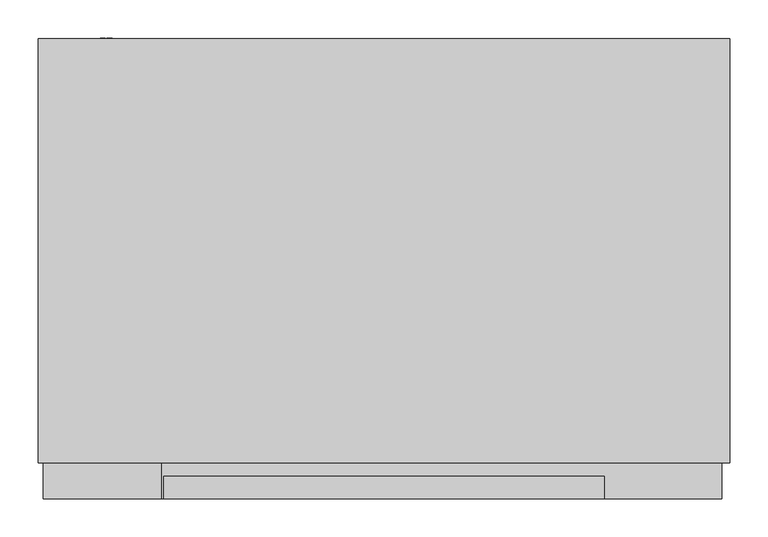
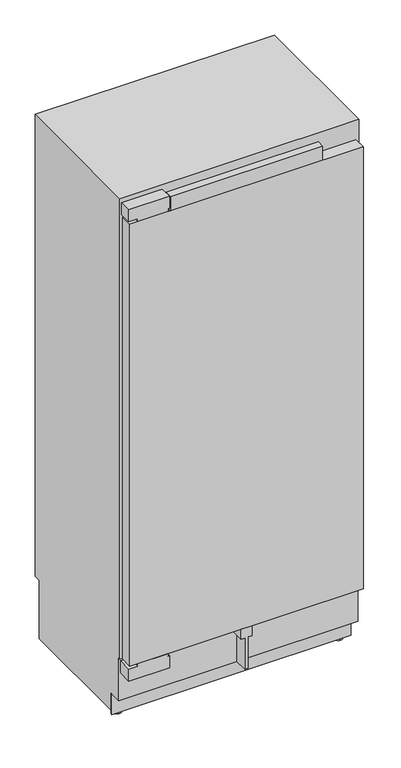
"""IFC4 building model written with IfcOpenShell, lengths in millimetres: proxy geometry, 11502720_USA_K2912Vi : 36291201_USA_11502720_K2912Vi."""

from ifc_helpers import new_model, si_unit, point, frame, frame_2d, origin, place, context, project, spatial, polyline, circle_curve, trimmed, segment, composite_curve, outline, extrude, source, transform, mapped, element, save
from ifc_brep_helpers import plane_surface, cylinder_surface, advanced_brep


def specialty_equipment_9068d553(model_context):
    return source(origin(), model_context, "Body", "SolidModel", [
        extrude(outline(polyline([(-443.0, 47.0), (443.0, 47.0), (443.0, 0.0), (-443.0, 0.0), (-443.0, 47.0)])), frame((0.0, 0.0, 265.0), z_axis=(0.0, 0.0, 1.0), x_axis=(1.0, 0.0, 0.0)), (0.0, 0.0, 1.0), 1771.0),
        extrude(outline(polyline([(-289.0, 29.0), (289.0, 29.0), (289.0, 0.0), (-289.0, 0.0), (-289.0, 29.0)])), frame((0.0, 0.0, 2036.0), z_axis=(0.0, 0.0, 1.0), x_axis=(1.0, 0.0, 0.0)), (0.0, 0.0, 1.0), 56.0),
        extrude(outline(polyline([(265.0, 21.0), (265.0, 0.0), (265.0, -21.0), (224.0, -21.0), (224.0, -6.5), (99.0, -6.5), (99.0, 0.0), (99.0, 6.5), (224.0, 6.5), (224.0, 21.0), (265.0, 21.0)])), frame((0.0, 0.0, 0.0), z_axis=(0.0, 1.0, 0.0), x_axis=(0.0, 0.0, 1.0)), (0.0, 0.0, 1.0), 54.0),
        extrude(outline(polyline([(87.0, 1998.0), (544.0, 1998.0), (544.0, 1791.0), (475.0, 1791.0), (447.0, 1868.0), (201.3701279, 1868.0), (156.3150905, 1940.0880598), (87.0, 1949.0), (87.0, 1998.0)])), frame((-408.0, 0.0, 0.0), z_axis=(1.0, 0.0, 0.0), x_axis=(0.0, 1.0, 0.0)), (0.0, 0.0, 1.0), 816.0),
        extrude(outline(polyline([(196.9886114, 1875.0), (195.809433, 1875.0), (158.6921935, 1934.4), (159.8713719, 1934.4), (196.9886114, 1875.0)])), frame((-69.0, 0.0, 0.0), z_axis=(1.0, 0.0, 0.0), x_axis=(0.0, 1.0, 0.0)), (0.0, 0.0, 1.0), 138.0),
        extrude(outline(polyline([(2095.0, -447.5), (2047.0, -447.5), (2047.0, -413.5), (2036.5, -413.5), (2036.5, -298.5), (2047.0, -298.5), (2047.0, -292.5), (2095.0, -292.5), (2095.0, -447.5)])), frame((0.0, 0.0, 0.0), z_axis=(0.0, 1.0, 0.0), x_axis=(0.0, 0.0, 1.0)), (0.0, 0.0, 1.0), 47.0),
        extrude(outline(polyline([(254.0, -447.5), (206.0, -447.5), (206.0, -292.5), (254.0, -292.5), (254.0, -298.5), (264.0, -298.5), (264.0, -413.5), (254.0, -413.5), (254.0, -447.5)])), frame((0.0, 0.0, 0.0), z_axis=(0.0, 1.0, 0.0), x_axis=(0.0, 0.0, 1.0)), (0.0, 0.0, 1.0), 54.0),
        extrude(outline(polyline([(99.0373308, -363.7645771), (97.7615342, -363.7645771), (97.7615342, -357.8195541), (94.7968516, -357.8195541), (94.7968516, -363.469579), (93.5246295, -363.469579), (93.5246295, -357.8415693), (90.2570046, -357.8415693), (90.2570046, -363.9619689), (88.9546219, -363.9619689), (88.9546219, -356.5443524), (99.0373308, -356.5443524), (99.0373308, -363.7645771)])), frame((0.0, 604.0, 0.0), z_axis=(0.0, 1.0, 0.0), x_axis=(0.0, 0.0, 1.0)), (0.0, 0.0, 1.0), 1.0),
        extrude(outline(polyline([(99.0458, -367.0619704), (90.2663944, -367.0619704), (90.2663944, -372.1145879), (89.0134802, -372.1145879), (89.0134802, -365.8423809), (99.0458, -365.8423809), (99.0458, -367.0619704)])), frame((0.0, 604.0, 0.0), z_axis=(0.0, 1.0, 0.0), x_axis=(0.0, 0.0, 1.0)), (0.0, 0.0, 1.0), 1.0),
        extrude(outline(composite_curve([segment(trimmed(circle_curve(frame_2d((94.0, -364.0)), 7.5), [point((86.5, -364.0))], [point((101.5, -364.0))], False, "CARTESIAN"), True, "CONTINUOUS"), segment(trimmed(circle_curve(frame_2d((94.0, -364.0)), 7.5), [point((101.5, -364.0))], [point((86.5, -364.0))], False, "CARTESIAN"), True, "CONTINUOUS")], self_intersect=False)), frame((0.0, 577.0, 0.0), z_axis=(0.0, 1.0, 0.0), x_axis=(0.0, 0.0, 1.0)), (0.0, 0.0, 1.0), 27.0),
        extrude(outline(polyline([(-454.0, 104.0), (454.0, 104.0), (454.0, 99.0), (-454.0, 99.0), (-454.0, 104.0)])), frame((0.0, 0.0, 14.0), z_axis=(0.0, 0.0, 1.0), x_axis=(1.0, 0.0, 0.0)), (0.0, 0.0, 1.0), 83.0),
        advanced_brep(
        [(-420.0, 139.0, 0.0), (-420.0, 109.0, 0.0), (-420.0, 139.0, 7.0), (-420.0, 109.0, 7.0), (-420.0, 128.7, 7.0), (-420.0, 119.3, 7.0), (-420.0, 128.7, 28.0), (-420.0, 119.3, 28.0)],
        [
            (0, 1, circle_curve(frame((-420.0, 124.0, 0.0), z_axis=(0.0, 0.0, -1.0), x_axis=(1.0, 0.0, 0.0)), 15.0)),
            (1, 0, circle_curve(frame((-420.0, 124.0, 0.0), z_axis=(0.0, 0.0, -1.0), x_axis=(1.0, 0.0, 0.0)), 15.0)),
            (2, 3, circle_curve(frame((-420.0, 124.0, 7.0), z_axis=(0.0, 0.0, 1.0), x_axis=(1.0, 0.0, 0.0)), 15.0)),
            (3, 2, circle_curve(frame((-420.0, 124.0, 7.0), z_axis=(0.0, 0.0, 1.0), x_axis=(1.0, 0.0, 0.0)), 15.0)),
            (4, 5, circle_curve(frame((-420.0, 124.0, 7.0), z_axis=(0.0, 0.0, -1.0), x_axis=(0.0, -1.0, 0.0)), 4.7)),
            (5, 4, circle_curve(frame((-420.0, 124.0, 7.0), z_axis=(0.0, 0.0, -1.0), x_axis=(0.0, -1.0, 0.0)), 4.7)),
            (0, 2),
            (3, 1),
            (6, 7, circle_curve(frame((-420.0, 124.0, 28.0), z_axis=(0.0, 0.0, 1.0), x_axis=(0.0, -1.0, 0.0)), 4.7)),
            (7, 6, circle_curve(frame((-420.0, 124.0, 28.0), z_axis=(0.0, 0.0, 1.0), x_axis=(0.0, -1.0, 0.0)), 4.7)),
            (7, 5),
            (4, 6),
        ],
        [
            plane_surface(frame((-405.0, 124.0, 0.0), z_axis=(0.0, 0.0, -1.0), x_axis=(0.0, -1.0, 0.0))),
            plane_surface(frame((-405.0, 124.0, 7.0), z_axis=(0.0, 0.0, 1.0), x_axis=(0.0, 1.0, 0.0))),
            cylinder_surface(frame((-420.0, 124.0, 7.0), z_axis=(0.0, 0.0, -1.0), x_axis=(1.0, 0.0, 0.0)), 15.0),
            plane_surface(frame((-420.0, 119.3, 28.0), z_axis=(0.0, 0.0, 1.0), x_axis=(1.0, 0.0, 0.0))),
            cylinder_surface(frame((-420.0, 124.0, 28.0), z_axis=(0.0, 0.0, -1.0), x_axis=(0.0, -1.0, 0.0)), 4.7),
        ],
        [
            (0, [[1, 2]]),
            (1, [[3, 4], [5, 6]]),
            (2, [[-1, 7, -4, 8]]),
            (2, [[-2, -8, -3, -7]]),
            (3, [[9, 10]]),
            (4, [[-10, 11, -5, 12]]),
            (4, [[-9, -12, -6, -11]]),
        ],
    ),
        advanced_brep(
        [(420.0, 139.0, 0.0), (420.0, 109.0, 0.0), (420.0, 139.0, 7.0), (420.0, 109.0, 7.0), (420.0, 128.7, 7.0), (420.0, 119.3, 7.0), (420.0, 128.7, 28.0), (420.0, 119.3, 28.0)],
        [
            (0, 1, circle_curve(frame((420.0, 124.0, 0.0), z_axis=(0.0, 0.0, -1.0), x_axis=(1.0, 0.0, 0.0)), 15.0)),
            (1, 0, circle_curve(frame((420.0, 124.0, 0.0), z_axis=(0.0, 0.0, -1.0), x_axis=(1.0, 0.0, 0.0)), 15.0)),
            (2, 3, circle_curve(frame((420.0, 124.0, 7.0), z_axis=(0.0, 0.0, 1.0), x_axis=(1.0, 0.0, 0.0)), 15.0)),
            (3, 2, circle_curve(frame((420.0, 124.0, 7.0), z_axis=(0.0, 0.0, 1.0), x_axis=(1.0, 0.0, 0.0)), 15.0)),
            (4, 5, circle_curve(frame((420.0, 124.0, 7.0), z_axis=(0.0, 0.0, -1.0), x_axis=(0.0, -1.0, 0.0)), 4.7)),
            (5, 4, circle_curve(frame((420.0, 124.0, 7.0), z_axis=(0.0, 0.0, -1.0), x_axis=(0.0, -1.0, 0.0)), 4.7)),
            (0, 2),
            (3, 1),
            (6, 7, circle_curve(frame((420.0, 124.0, 28.0), z_axis=(0.0, 0.0, 1.0), x_axis=(0.0, -1.0, 0.0)), 4.7)),
            (7, 6, circle_curve(frame((420.0, 124.0, 28.0), z_axis=(0.0, 0.0, 1.0), x_axis=(0.0, -1.0, 0.0)), 4.7)),
            (7, 5),
            (4, 6),
        ],
        [
            plane_surface(frame((-405.0, 124.0, 0.0), z_axis=(0.0, 0.0, -1.0), x_axis=(0.0, -1.0, 0.0))),
            plane_surface(frame((-405.0, 124.0, 7.0), z_axis=(0.0, 0.0, 1.0), x_axis=(0.0, 1.0, 0.0))),
            cylinder_surface(frame((420.0, 124.0, 7.0), z_axis=(0.0, 0.0, -1.0), x_axis=(1.0, 0.0, 0.0)), 15.0),
            plane_surface(frame((-420.0, 119.3, 28.0), z_axis=(0.0, 0.0, 1.0), x_axis=(1.0, 0.0, 0.0))),
            cylinder_surface(frame((420.0, 124.0, 28.0), z_axis=(0.0, 0.0, -1.0), x_axis=(0.0, -1.0, 0.0)), 4.7),
        ],
        [
            (0, [[1, 2]]),
            (1, [[3, 4], [5, 6]]),
            (2, [[-1, 7, -4, 8]]),
            (2, [[-2, -8, -3, -7]]),
            (3, [[9, 10]]),
            (4, [[-10, 11, -5, 12]]),
            (4, [[-9, -12, -6, -11]]),
        ],
    ),
        advanced_brep(
        [(454.0, 47.0, 2114.0), (454.0, 47.0, 267.0), (454.0, 54.0, 267.0), (454.0, 54.0, 97.0), (454.0, 104.0, 97.0), (454.0, 104.0, 28.0), (454.0, 577.0, 28.0), (454.0, 577.0, 263.0), (454.0, 604.0, 263.0), (454.0, 604.0, 2114.0), (-454.0, 47.0, 2114.0), (-454.0, 604.0, 2114.0), (-454.0, 604.0, 263.0), (-454.0, 577.0, 263.0), (-454.0, 577.0, 28.0), (-454.0, 104.0, 28.0), (-454.0, 104.0, 97.0), (-454.0, 54.0, 97.0), (-454.0, 54.0, 267.0), (-454.0, 47.0, 267.0), (394.0, 577.0, 28.0), (394.0, 577.0, 14.0), (-394.0, 577.0, 14.0), (-394.0, 577.0, 28.0), (394.0, 104.0, 14.0), (-394.0, 104.0, 14.0), (-394.0, 104.0, 28.0), (394.0, 104.0, 28.0), (408.0, 47.0, 1998.0), (408.0, 47.0, 343.0), (-408.0, 47.0, 343.0), (-408.0, 47.0, 1998.0), (408.0, 544.0, 1998.0), (-408.0, 544.0, 1998.0), (-408.0, 544.0, 343.0), (408.0, 544.0, 343.0), (-412.5, 202.8193473, 28.0), (-431.5, 202.8193473, 28.0), (-431.5, 153.1806527, 28.0), (-412.5, 153.1806527, 28.0), (-432.0, 525.8193473, 28.0), (-432.0, 476.1806527, 28.0), (-416.0, 476.1806527, 28.0), (-416.0, 525.8193473, 28.0), (431.5, 153.1806527, 28.0), (431.5, 202.8193473, 28.0), (412.5, 202.8193473, 28.0), (412.5, 153.1806527, 28.0), (416.0, 525.8193473, 28.0), (416.0, 476.1806527, 28.0), (432.0, 476.1806527, 28.0), (432.0, 525.8193473, 28.0), (-412.5, 203.0, 25.0), (-412.5, 153.0, 25.0), (-431.5, 153.0, 25.0), (-431.5, 203.0, 25.0), (-412.5, 178.0, 25.0), (-431.5, 178.0, 25.0), (431.5, 178.0, 25.0), (431.5, 153.0, 25.0), (431.5, 203.0, 25.0), (412.5, 203.0, 25.0), (412.5, 153.0, 25.0), (412.5, 178.0, 25.0), (-432.0, 526.0, 25.0), (-432.0, 476.0, 25.0), (-432.0, 501.0, 25.0), (-416.0, 526.0, 25.0), (-416.0, 476.0, 25.0), (-416.0, 501.0, 25.0), (416.0, 526.0, 25.0), (416.0, 476.0, 25.0), (416.0, 501.0, 25.0), (432.0, 526.0, 25.0), (432.0, 476.0, 25.0), (432.0, 501.0, 25.0)],
        [
            (0, 1),
            (1, 2),
            (2, 3),
            (3, 4),
            (4, 5),
            (5, 6),
            (6, 7),
            (7, 8),
            (8, 9),
            (9, 0),
            (10, 11),
            (11, 12),
            (12, 13),
            (13, 14),
            (14, 15),
            (15, 16),
            (16, 17),
            (17, 18),
            (18, 19),
            (19, 10),
            (9, 11),
            (10, 0),
            (8, 12),
            (7, 13),
            (6, 20),
            (20, 21),
            (21, 22),
            (22, 23),
            (23, 14),
            (21, 24),
            (24, 25),
            (25, 22),
            (4, 16),
            (15, 26),
            (26, 25),
            (24, 27),
            (27, 5),
            (3, 17),
            (2, 18),
            (1, 19),
            (28, 29),
            (29, 30),
            (30, 31),
            (31, 28),
            (32, 33),
            (33, 34),
            (34, 35),
            (35, 32),
            (35, 29),
            (28, 32),
            (34, 30),
            (33, 31),
            (23, 26),
            (36, 37),
            (37, 38),
            (38, 39),
            (39, 36),
            (40, 41),
            (41, 42),
            (42, 43),
            (43, 40),
            (27, 20),
            (44, 45),
            (45, 46),
            (46, 47),
            (47, 44),
            (48, 49),
            (49, 50),
            (50, 51),
            (51, 48),
            (52, 53, circle_curve(frame((-412.5, 178.0, 25.0), z_axis=(-1.0, 0.0, 0.0), x_axis=(0.0, -1.0, 0.0)), 25.0)),
            (53, 54),
            (54, 55, circle_curve(frame((-431.5, 178.0, 25.0), z_axis=(1.0, 0.0, 0.0), x_axis=(0.0, -1.0, 0.0)), 25.0)),
            (55, 52),
            (53, 39, circle_curve(frame((-412.5, 178.0, 25.0), z_axis=(-1.0, 0.0, 0.0), x_axis=(0.0, -1.0, 0.0)), 25.0)),
            (38, 54, circle_curve(frame((-431.5, 178.0, 25.0), z_axis=(1.0, 0.0, 0.0), x_axis=(0.0, -1.0, 0.0)), 25.0)),
            (55, 37, circle_curve(frame((-431.5, 178.0, 25.0), z_axis=(1.0, 0.0, 0.0), x_axis=(0.0, -1.0, 0.0)), 25.0)),
            (36, 52, circle_curve(frame((-412.5, 178.0, 25.0), z_axis=(-1.0, 0.0, 0.0), x_axis=(0.0, -1.0, 0.0)), 25.0)),
            (52, 56),
            (56, 53),
            (54, 57),
            (57, 55),
            (58, 59),
            (59, 60, circle_curve(frame((431.5, 178.0, 25.0), z_axis=(1.0, 0.0, 0.0), x_axis=(0.0, -1.0, 0.0)), 25.0)),
            (60, 58),
            (60, 45, circle_curve(frame((431.5, 178.0, 25.0), z_axis=(1.0, 0.0, 0.0), x_axis=(0.0, -1.0, 0.0)), 25.0)),
            (44, 59, circle_curve(frame((431.5, 178.0, 25.0), z_axis=(1.0, 0.0, 0.0), x_axis=(0.0, -1.0, 0.0)), 25.0)),
            (61, 62, circle_curve(frame((412.5, 178.0, 25.0), z_axis=(-1.0, 0.0, 0.0), x_axis=(0.0, -1.0, 0.0)), 25.0)),
            (62, 63),
            (63, 61),
            (62, 47, circle_curve(frame((412.5, 178.0, 25.0), z_axis=(-1.0, 0.0, 0.0), x_axis=(0.0, -1.0, 0.0)), 25.0)),
            (46, 61, circle_curve(frame((412.5, 178.0, 25.0), z_axis=(-1.0, 0.0, 0.0), x_axis=(0.0, -1.0, 0.0)), 25.0)),
            (64, 65, circle_curve(frame((-432.0, 501.0, 25.0), z_axis=(-1.0, 0.0, 0.0), x_axis=(0.0, -1.0, 0.0)), 25.0)),
            (65, 66),
            (66, 64),
            (65, 41, circle_curve(frame((-432.0, 501.0, 25.0), z_axis=(-1.0, 0.0, 0.0), x_axis=(0.0, -1.0, 0.0)), 25.0)),
            (40, 64, circle_curve(frame((-432.0, 501.0, 25.0), z_axis=(-1.0, 0.0, 0.0), x_axis=(0.0, -1.0, 0.0)), 25.0)),
            (64, 67),
            (67, 68, circle_curve(frame((-416.0, 501.0, 25.0), z_axis=(-1.0, 0.0, 0.0), x_axis=(0.0, -1.0, 0.0)), 25.0)),
            (68, 65),
            (43, 67, circle_curve(frame((-416.0, 501.0, 25.0), z_axis=(-1.0, 0.0, 0.0), x_axis=(0.0, -1.0, 0.0)), 25.0)),
            (68, 42, circle_curve(frame((-416.0, 501.0, 25.0), z_axis=(-1.0, 0.0, 0.0), x_axis=(0.0, -1.0, 0.0)), 25.0)),
            (67, 69),
            (69, 68),
            (70, 71, circle_curve(frame((416.0, 501.0, 25.0), z_axis=(-1.0, 0.0, 0.0), x_axis=(0.0, -1.0, 0.0)), 25.0)),
            (71, 72),
            (72, 70),
            (71, 49, circle_curve(frame((416.0, 501.0, 25.0), z_axis=(-1.0, 0.0, 0.0), x_axis=(0.0, -1.0, 0.0)), 25.0)),
            (48, 70, circle_curve(frame((416.0, 501.0, 25.0), z_axis=(-1.0, 0.0, 0.0), x_axis=(0.0, -1.0, 0.0)), 25.0)),
            (70, 73),
            (73, 74, circle_curve(frame((432.0, 501.0, 25.0), z_axis=(-1.0, 0.0, 0.0), x_axis=(0.0, -1.0, 0.0)), 25.0)),
            (74, 71),
            (51, 73, circle_curve(frame((432.0, 501.0, 25.0), z_axis=(-1.0, 0.0, 0.0), x_axis=(0.0, -1.0, 0.0)), 25.0)),
            (74, 50, circle_curve(frame((432.0, 501.0, 25.0), z_axis=(-1.0, 0.0, 0.0), x_axis=(0.0, -1.0, 0.0)), 25.0)),
            (73, 75),
            (75, 74),
            (59, 62),
            (61, 60),
        ],
        [
            plane_surface(frame((454.0, 604.0, 2114.0), z_axis=(1.0, 0.0, 0.0), x_axis=(0.0, -1.0, 0.0))),
            plane_surface(frame((-454.0, 604.0, 2114.0), z_axis=(-1.0, 0.0, 0.0), x_axis=(0.0, 1.0, 0.0))),
            plane_surface(frame((-454.0, 47.0, 2114.0), z_axis=(0.0, 0.0, 1.0), x_axis=(1.0, 0.0, 0.0))),
            plane_surface(frame((-454.0, 604.0, 2114.0), z_axis=(0.0, 1.0, 0.0), x_axis=(1.0, 0.0, 0.0))),
            plane_surface(frame((-454.0, 604.0, 263.0), z_axis=(0.0, 0.0, -1.0), x_axis=(1.0, 0.0, 0.0))),
            plane_surface(frame((-454.0, 577.0, 263.0), z_axis=(0.0, 1.0, 0.0), x_axis=(1.0, 0.0, 0.0))),
            plane_surface(frame((-454.0, 577.0, 14.0), z_axis=(0.0, 0.0, -1.0), x_axis=(1.0, 0.0, 0.0))),
            plane_surface(frame((-454.0, 104.0, 14.0), z_axis=(0.0, -1.0, 0.0), x_axis=(1.0, 0.0, 0.0))),
            plane_surface(frame((-454.0, 104.0, 97.0), z_axis=(0.0, 0.0, -1.0), x_axis=(1.0, 0.0, 0.0))),
            plane_surface(frame((-454.0, 54.0, 97.0), z_axis=(0.0, -1.0, 0.0), x_axis=(1.0, 0.0, 0.0))),
            plane_surface(frame((-454.0, 54.0, 267.0), z_axis=(0.0, 0.0, -1.0), x_axis=(1.0, 0.0, 0.0))),
            plane_surface(frame((-454.0, 47.0, 267.0), z_axis=(0.0, -1.0, 0.0), x_axis=(1.0, 0.0, 0.0))),
            plane_surface(frame((408.0, 544.0, 1998.0), z_axis=(0.0, -1.0, 0.0), x_axis=(0.0, 0.0, -1.0))),
            plane_surface(frame((408.0, 544.0, 1998.0), z_axis=(-1.0, 0.0, 0.0), x_axis=(0.0, -1.0, 0.0))),
            plane_surface(frame((408.0, 544.0, 343.0), z_axis=(0.0, 0.0, 1.0), x_axis=(0.0, -1.0, 0.0))),
            plane_surface(frame((-408.0, 544.0, 343.0), z_axis=(1.0, 0.0, 0.0), x_axis=(0.0, -1.0, 0.0))),
            plane_surface(frame((-408.0, 544.0, 1998.0), z_axis=(0.0, 0.0, -1.0), x_axis=(0.0, -1.0, 0.0))),
            plane_surface(frame((-454.0, 604.0, 28.0), z_axis=(0.0, 0.0, -1.0), x_axis=(-1.0, 0.0, 0.0))),
            plane_surface(frame((-394.0, 104.0, 28.0), z_axis=(-1.0, 0.0, 0.0), x_axis=(0.0, 0.0, -1.0))),
            plane_surface(frame((394.0, 604.0, 28.0), z_axis=(1.0, 0.0, 0.0), x_axis=(0.0, 0.0, -1.0))),
            cylinder_surface(frame((-546.6988927, 178.0, 25.0), z_axis=(1.0, 0.0, 0.0), x_axis=(0.0, -1.0, 0.0)), 25.0),
            plane_surface(frame((-412.5, 178.0, 25.0), z_axis=(1.0, 0.0, 0.0), x_axis=(0.0, -1.0, 0.0))),
            plane_surface(frame((-431.5, 178.0, 25.0), z_axis=(-1.0, 0.0, 0.0), x_axis=(0.0, -1.0, 0.0))),
            plane_surface(frame((431.5, 178.0, 25.0), z_axis=(1.0, 0.0, 0.0), x_axis=(0.0, -1.0, 0.0))),
            plane_surface(frame((412.5, 178.0, 25.0), z_axis=(-1.0, 0.0, 0.0), x_axis=(0.0, -1.0, 0.0))),
            plane_surface(frame((-432.0, 501.0, 25.0), z_axis=(-1.0, 0.0, 0.0), x_axis=(0.0, -1.0, 0.0))),
            cylinder_surface(frame((-546.6988927, 501.0, 25.0), z_axis=(1.0, 0.0, 0.0), x_axis=(0.0, -1.0, 0.0)), 25.0),
            plane_surface(frame((-416.0, 501.0, 25.0), z_axis=(1.0, 0.0, 0.0), x_axis=(0.0, -1.0, 0.0))),
            plane_surface(frame((416.0, 501.0, 25.0), z_axis=(-1.0, 0.0, 0.0), x_axis=(0.0, -1.0, 0.0))),
            plane_surface(frame((432.0, 501.0, 25.0), z_axis=(1.0, 0.0, 0.0), x_axis=(0.0, -1.0, 0.0))),
        ],
        [
            (0, [[1, 2, 3, 4, 5, 6, 7, 8, 9, 10]]),
            (1, [[11, 12, 13, 14, 15, 16, 17, 18, 19, 20]]),
            (2, [[-10, 21, -11, 22]]),
            (3, [[-9, 23, -12, -21]]),
            (4, [[-8, 24, -13, -23]]),
            (5, [[-24, -7, 25, 26, 27, 28, 29, -14]]),
            (6, [[-27, 30, 31, 32]]),
            (7, [[33, -16, 34, 35, -31, 36, 37, -5]]),
            (8, [[-4, 38, -17, -33]]),
            (9, [[-3, 39, -18, -38]]),
            (10, [[-2, 40, -19, -39]]),
            (11, [[-1, -22, -20, -40], [41, 42, 43, 44]]),
            (12, [[45, 46, 47, 48]]),
            (13, [[-48, 49, -41, 50]]),
            (14, [[-47, 51, -42, -49]]),
            (15, [[-46, 52, -43, -51]]),
            (16, [[-45, -50, -44, -52]]),
            (17, [[53, -34, -15, -29], [54, 55, 56, 57], [58, 59, 60, 61]]),
            (17, [[62, -25, -6, -37], [63, 64, 65, 66], [67, 68, 69, 70]]),
            (18, [[-53, -28, -32, -35]]),
            (19, [[-62, -36, -30, -26]]),
            (20, [[71, 72, 73, 74]]),
            (20, [[-72, 75, -56, 76]]),
            (20, [[-74, 77, -54, 78]]),
            (21, [[-71, 79, 80]]),
            (21, [[-80, -79, -78, -57, -75]]),
            (22, [[-73, 81, 82]]),
            (22, [[-81, -76, -55, -77, -82]]),
            (23, [[83, 84, 85]]),
            (23, [[-83, -85, 86, -63, 87]]),
            (24, [[88, 89, 90]]),
            (24, [[-89, 91, -65, 92, -90]]),
            (25, [[93, 94, 95]]),
            (25, [[-94, 96, -58, 97, -95]]),
            (26, [[-93, 98, 99, 100]]),
            (26, [[-98, -97, -61, 101]]),
            (26, [[-100, 102, -59, -96]]),
            (27, [[-99, 103, 104]]),
            (27, [[-104, -103, -101, -60, -102]]),
            (28, [[105, 106, 107]]),
            (28, [[-106, 108, -67, 109, -107]]),
            (26, [[-105, 110, 111, 112]]),
            (26, [[-110, -109, -70, 113]]),
            (26, [[-112, 114, -68, -108]]),
            (29, [[-111, 115, 116]]),
            (29, [[-116, -115, -113, -69, -114]]),
            (20, [[-84, 117, -88, 118]]),
            (20, [[-117, -87, -66, -91]]),
            (20, [[-118, -92, -64, -86]]),
        ],
    ),
    ])


if __name__ == "__main__":
    model = new_model("IFC4")
    model_context = context("Model", 3, world=origin())
    ifc_project = project(units=[si_unit("LENGTHUNIT", "METRE", prefix="MILLI")], contexts=[model_context])
    site = spatial("IfcSite", under=ifc_project)
    building = spatial("IfcBuilding", under=site)
    placement = place(None, origin())
    specialty_equipment_shape = specialty_equipment_9068d553(model_context)
    element("IfcBuildingElementProxy", 1, Name="11502720_USA_K2912Vi : 36291201_USA_11502720_K2912Vi", ObjectType="11502720_USA_K2912Vi : 36291201_USA_11502720_K2912Vi", at=placement, inside=building, context=model_context, shape_type="MappedRepresentation", body=[
        mapped(specialty_equipment_shape, transform((0.0, 0.0, 0.0), x_axis=(1.0, 0.0, 0.0), y_axis=(0.0, 1.0, 0.0), z_axis=(0.0, 0.0, 1.0))),
    ])
    save(model, "model.ifc")
